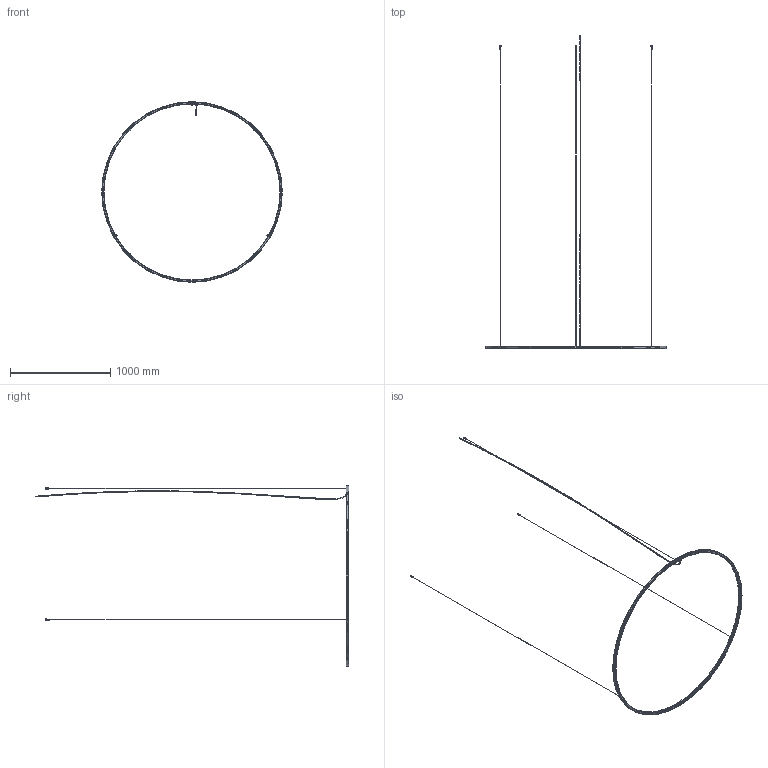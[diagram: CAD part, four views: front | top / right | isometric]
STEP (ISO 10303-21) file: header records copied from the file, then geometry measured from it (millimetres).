
FILE_DESCRIPTION (( 'STEP AP203' ), '1' );
FILE_NAME ('SPULA180LEDANXX-PER 3D.STEP', '2024-05-28T16:17:17', ( '' ), ( '' ), 'SwSTEP 2.0', 'SolidWorks 2024', '' );
FILE_SCHEMA (( 'CONFIG_CONTROL_DESIGN' ));
Length unit declared in the file: millimetre
Products named in the file (14): WSCM2A0026-0248-00; WSCM1I0008-0242-00; TANG YAO-7727-P415 + RIV TESSILE 33-PER ANELLI; WSCA01193000B3028A; SPULA180LEDANXX-PER 3D; WSCM2D0032-0700-00; WSCM1I0007-0242-00; WSCM1I0006-0242-00; WSCM2A0022-0700-00; ASSIEME ANELLO 180 MODULI LED; ASSIEME GRIPPER M10X1 CROMO; WSMCVIF-04A08-0141_WSMCVIF-04A08-0141; WS0T21024---------; WSCP2F0011-0403-00
Assembly tree (28 placements, depth 3):
  SPULA180LEDANXX-PER 3D
    ASSIEME ANELLO 180 MODULI LED
      WSCM2D0032-0700-00
      WSCP2F0011-0403-00  x6
      WSCM2A0022-0700-00
    WS0T21024---------  x3
    WSCM2A0026-0248-00  x3
    WSMCVIF-04A08-0141_WSMCVIF-04A08-0141  x3
    WSCA01193000B3028A  x3
    TANG YAO-7727-P415 + RIV TESSILE 33-PER ANELLI
    ASSIEME GRIPPER M10X1 CROMO  x3
      WSCM1I0006-0242-00
      WSCM1I0007-0242-00
      WSCM1I0008-0242-00
Bounding box: 1800 x 3123.13 x 1800 mm (x, y, z)
Volume: 1678592.4 mm3; surface area: 1200298.2 mm2
Topology: 30 solids, 30 shells, 1183 faces, 2874 edges, 1815 vertices
Faces by surface type: plane 468, cylinder 417, cone 174, torus 80, bspline 32, sphere 12
Entity records: 29430 total; most frequent: CARTESIAN_POINT 15914, DIRECTION 2458, ORIENTED_EDGE 2448, EDGE_CURVE 1224, AXIS2_PLACEMENT_3D 989, VERTEX_POINT 766, EDGE_LOOP 568, ADVANCED_FACE 510
